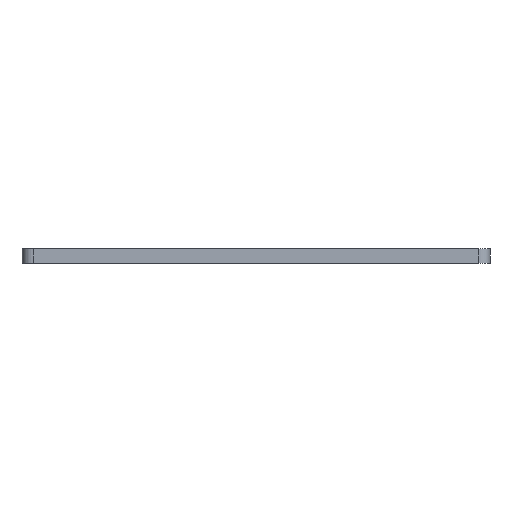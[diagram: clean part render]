
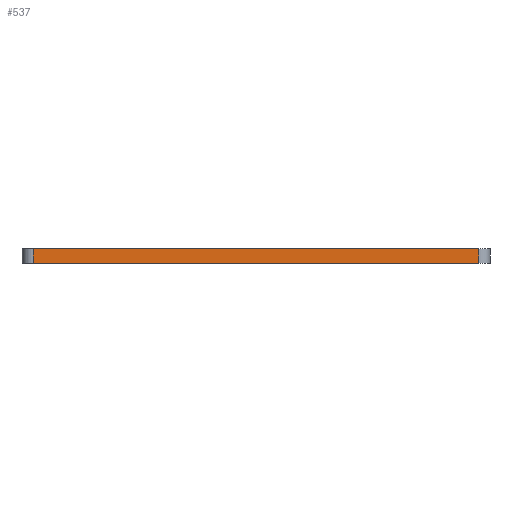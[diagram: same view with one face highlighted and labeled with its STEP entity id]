
A CAD part, front view. The second image highlights one B-rep face of the part: STEP entity #537.
In plain terms, the highlighted planar face has unit normal (0, -1, 0).
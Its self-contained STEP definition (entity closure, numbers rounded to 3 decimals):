
#46 = CARTESIAN_POINT ( 'NONE',  ( 3., 0., 0. ) ) ;
#66 = DIRECTION ( 'NONE',  ( 1., 0., 0. ) ) ;
#71 = PLANE ( 'NONE',  #658 ) ;
#75 = DIRECTION ( 'NONE',  ( -1., 0., 0. ) ) ;
#93 = DIRECTION ( 'NONE',  ( 0., 0., -1. ) ) ;
#94 = CARTESIAN_POINT ( 'NONE',  ( 3., 0., 4. ) ) ;
#107 = VERTEX_POINT ( 'NONE', #133 ) ;
#108 = ORIENTED_EDGE ( 'NONE', *, *, #657, .T. ) ;
#133 = CARTESIAN_POINT ( 'NONE',  ( 122., 0., 4. ) ) ;
#175 = CARTESIAN_POINT ( 'NONE',  ( 122., 0., 4. ) ) ;
#187 = DIRECTION ( 'NONE',  ( 0., 0., 1. ) ) ;
#234 = LINE ( 'NONE', #175, #675 ) ;
#246 = VECTOR ( 'NONE', #93, 1000. ) ;
#248 = VECTOR ( 'NONE', #66, 1000. ) ;
#257 = CARTESIAN_POINT ( 'NONE',  ( 0., 0., 4. ) ) ;
#287 = LINE ( 'NONE', #296, #246 ) ;
#296 = CARTESIAN_POINT ( 'NONE',  ( 3., 0., 4. ) ) ;
#312 = VERTEX_POINT ( 'NONE', #94 ) ;
#318 = CARTESIAN_POINT ( 'NONE',  ( 122., 0., 0. ) ) ;
#320 = LINE ( 'NONE', #745, #248 ) ;
#333 = DIRECTION ( 'NONE',  ( 0., 1., 0. ) ) ;
#373 = ORIENTED_EDGE ( 'NONE', *, *, #515, .T. ) ;
#382 = ORIENTED_EDGE ( 'NONE', *, *, #758, .T. ) ;
#388 = VERTEX_POINT ( 'NONE', #46 ) ;
#402 = CARTESIAN_POINT ( 'NONE',  ( 0., 0., 4. ) ) ;
#465 = DIRECTION ( 'NONE',  ( 1., 0., 0. ) ) ;
#515 = EDGE_CURVE ( 'NONE', #388, #755, #320, .T. ) ;
#537 = ADVANCED_FACE ( 'NONE', ( #748 ), #71, .F. ) ;
#539 = LINE ( 'NONE', #257, #632 ) ;
#589 = EDGE_CURVE ( 'NONE', #312, #107, #539, .T. ) ;
#617 = EDGE_LOOP ( 'NONE', ( #373, #382, #687, #108 ) ) ;
#632 = VECTOR ( 'NONE', #465, 1000. ) ;
#657 = EDGE_CURVE ( 'NONE', #312, #388, #287, .T. ) ;
#658 = AXIS2_PLACEMENT_3D ( 'NONE', #402, #333, #75 ) ;
#675 = VECTOR ( 'NONE', #187, 1000. ) ;
#687 = ORIENTED_EDGE ( 'NONE', *, *, #589, .F. ) ;
#745 = CARTESIAN_POINT ( 'NONE',  ( 0., 0., 0. ) ) ;
#748 = FACE_OUTER_BOUND ( 'NONE', #617, .T. ) ;
#755 = VERTEX_POINT ( 'NONE', #318 ) ;
#758 = EDGE_CURVE ( 'NONE', #755, #107, #234, .T. ) ;
